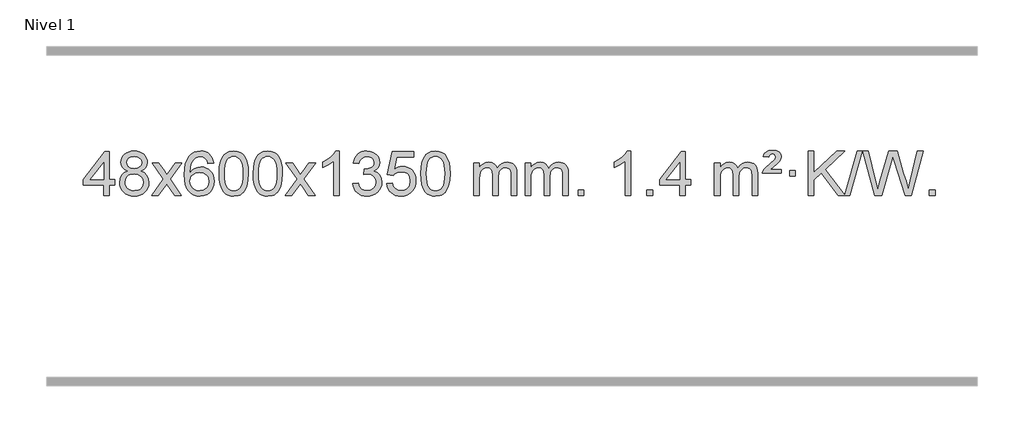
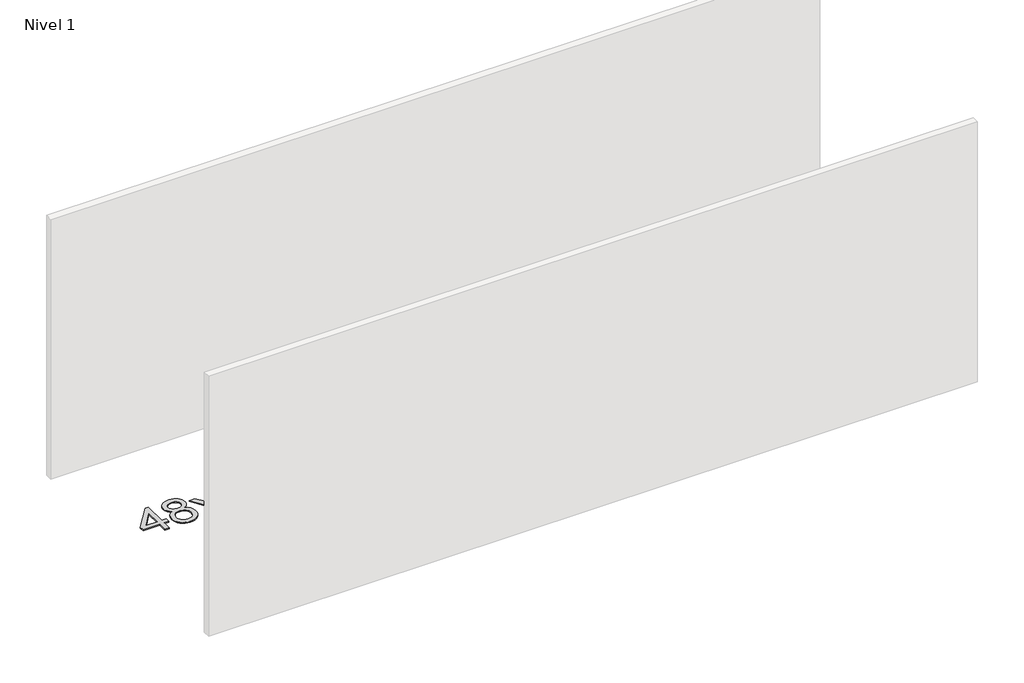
# One storey, part 10 of 10: 1 proxy.
"""IFC4 building model written with IfcOpenShell, lengths in millimetres."""

from ifc_helpers import new_model, si_unit, origin, origin_with_axes, place, context, project, spatial, polyline, outline, extrude, element, save

model = new_model("IFC4")

# Units and contexts
model_context = context("Model", 3, world=origin())
ifc_project = project(units=[si_unit("LENGTHUNIT", "METRE", prefix="MILLI")], contexts=[model_context])

# Site, building, storey
site = spatial("IfcSite", under=ifc_project)
building = spatial("IfcBuilding", under=site)
storey = spatial("IfcBuildingStorey", under=building, Name="Nivel 1", Elevation=0.0)

# Proxy
placement = place(None, origin())
element("IfcBuildingElementProxy", 1, Name="Texto de modelo 1", ObjectType="Texto de modelo 1", at=placement, inside=storey, context=model_context, shape_type="SweptSolid", body=[
    extrude(outline(polyline([(-13962.9088769, 14445.5327586), (-13962.9088769, 14539.7105494), (-14144.9859391, 14539.7105494), (-14144.9859391, 14589.9387045), (-13950.3518382, 14841.0794799), (-13912.6807219, 14841.0794799), (-13912.6807219, 14589.9387045), (-13862.4525668, 14589.9387045), (-13862.4525668, 14539.7105494), (-13912.6807219, 14539.7105494), (-13912.6807219, 14445.5327586), (-13962.9088769, 14445.5327586)]), holes=[polyline([(-13962.9088769, 14589.9387045), (-13962.9088769, 14745.1358555), (-14083.1817639, 14589.9387045), (-13962.9088769, 14589.9387045)])]), origin_with_axes(), (0.0, 0.0, 1.0), 10.0),
    extrude(outline(polyline([(-13745.3189395, 14666.8505669), (-13772.2111134, 14680.0943188), (-13791.0834597, 14698.0469601), (-13802.2302842, 14720.340609), (-13805.9458923, 14746.6073835), (-13803.9225414, 14767.0922793), (-13797.8524884, 14785.8726551), (-13787.7357336, 14802.9485111), (-13773.5722768, 14818.3198471), (-13756.0426997, 14831.0240387), (-13735.827584, 14840.0984612), (-13712.9269298, 14845.5431147), (-13687.3407371, 14847.3579992), (-13661.631917, 14845.5001952), (-13638.5595845, 14839.9267829), (-13618.1237397, 14830.6377626), (-13600.3243825, 14817.633134), (-13585.9034083, 14801.961361), (-13575.6027124, 14784.6709073), (-13569.4222949, 14765.7617727), (-13567.3621557, 14745.2339574), (-13571.0287129, 14719.8133115), (-13582.0283846, 14697.8998073), (-13600.483798, 14680.0575306), (-13626.5175805, 14666.8505669), (-13595.6032302, 14650.9212765), (-13573.1011148, 14627.462668), (-13559.3791164, 14597.6029127), (-13554.805117, 14562.4701822), (-13557.0737226, 14537.4174183), (-13563.8795395, 14514.4493191), (-13575.2225677, 14493.5658845), (-13591.1028071, 14474.7671145), (-13610.686392, 14459.2302316), (-13633.1394565, 14448.1324581), (-13658.4620005, 14441.473794), (-13686.654024, 14439.2542393), (-13714.8460476, 14441.482991), (-13740.1685916, 14448.1692463), (-13762.621656, 14459.313005), (-13782.2052409, 14474.9142673), (-13798.0854804, 14493.8448617), (-13809.4285086, 14514.9766166), (-13816.2343255, 14538.3095321), (-13818.5029311, 14563.8436083), (-13813.7449906, 14600.3375022), (-13799.4711692, 14630.356673), (-13776.4172309, 14652.8710511), (-13745.3189395, 14666.8505669)]), holes=[polyline([(-13755.7177373, 14745.1358555), (-13751.2663651, 14723.2100886), (-13737.9122487, 14705.6989056), (-13716.0477954, 14694.2209874), (-13686.0654128, 14690.3950146), (-13656.782006, 14694.1964619), (-13635.2486466, 14705.6008038), (-13622.0048947, 14722.5233755), (-13617.5903108, 14742.8795126), (-13622.1520475, 14764.0082019), (-13635.8372578, 14781.4825966), (-13657.6649228, 14793.2180323), (-13686.654024, 14797.1298442), (-13715.8270662, 14793.3038714), (-13737.6179431, 14781.8259532), (-13751.1927887, 14765.0014833), (-13755.7177373, 14745.1358555)]), polyline([(-13768.274776, 14565.6094419), (-13766.1778487, 14546.393739), (-13759.8870665, 14527.7911728), (-13748.2742582, 14511.5675768), (-13730.2112523, 14499.4887846), (-13708.5797909, 14491.9839919), (-13686.2616166, 14489.4823943), (-13652.0731165, 14494.7431069), (-13638.1794398, 14501.3189975), (-13626.4194787, 14510.5252445), (-13610.3798237, 14534.4253114), (-13605.033272, 14564.039812), (-13610.551502, 14594.1570847), (-13627.1061917, 14618.5844492), (-13639.1849839, 14628.0267537), (-13653.3484407, 14634.771257), (-13687.9293483, 14640.1668596), (-13721.6396018, 14634.8448334), (-13735.3769286, 14628.1923006), (-13747.0357222, 14618.8787548), (-13762.9650126, 14594.9173741), (-13768.274776, 14565.6094419)])]), origin_with_axes(), (0.0, 0.0, 1.0), 10.0),
    extrude(outline(polyline([(-13529.6910394, 14445.5327586), (-13422.3675987, 14593.8627791), (-13523.41252, 14740.6231697), (-13462.981771, 14740.6231697), (-13414.2251439, 14669.9898266), (-13391.4655111, 14636.6351924), (-13371.7470362, 14663.907511), (-13316.2213804, 14740.6231697), (-13255.7906313, 14740.6231697), (-13361.9368496, 14593.8627791), (-13259.7147059, 14445.5327586), (-13320.145455, 14445.5327586), (-13381.6553246, 14534.7073543), (-13392.9370391, 14550.9922639), (-13469.2602903, 14445.5327586), (-13529.6910394, 14445.5327586)])), origin_with_axes(), (0.0, 0.0, 1.0), 10.0),
    extrude(outline(polyline([(-12970.9028142, 14740.6231697), (-13021.1309693, 14734.3446503), (-13029.2243732, 14759.2379987), (-13040.1627312, 14776.2341468), (-13062.9468894, 14791.9059198), (-13090.4889881, 14797.1298442), (-13113.8372321, 14794.0886863), (-13135.8120499, 14784.9652129), (-13154.6843963, 14765.74951), (-13170.0986519, 14739.2987945), (-13180.5097123, 14701.8851956), (-13184.3724733, 14649.7808424), (-13164.2248027, 14673.2885019), (-13140.0794811, 14689.8554544), (-13113.2854091, 14699.6779036), (-13085.1914874, 14702.9520534), (-13061.0584285, 14700.7141046), (-13038.7893051, 14694.0002582), (-13018.3841171, 14682.8105142), (-12999.8428645, 14667.1448725), (-12984.4347403, 14647.935301), (-12973.4289372, 14626.1137673), (-12966.8254554, 14601.6802715), (-12964.6242948, 14574.6348135), (-12968.7690986, 14538.6682171), (-12981.2035101, 14505.3258456), (-13000.8974596, 14477.0479829), (-13026.8208775, 14456.2749129), (-13057.7965415, 14443.5094077), (-13092.6472291, 14439.2542393), (-13122.5897579, 14442.0746679), (-13149.6321502, 14450.5359538), (-13173.7744061, 14464.6380969), (-13195.0165257, 14484.3810973), (-13212.3345706, 14510.5988209), (-13224.7046027, 14544.1251333), (-13232.1266219, 14584.9600348), (-13234.6006284, 14633.1035252), (-13231.8537761, 14687.0779453), (-13223.6132194, 14733.1429025), (-13209.8789583, 14771.2983967), (-13190.6509927, 14801.5444281), (-13169.8104776, 14821.5878655), (-13145.6467619, 14835.9046065), (-13118.1598455, 14844.494651), (-13087.3497284, 14847.3579992), (-13064.2160823, 14845.5860343), (-13043.2774654, 14840.2701395), (-13024.5338777, 14831.4103147), (-13007.9853193, 14819.0065601), (-12994.0793799, 14803.4758086), (-12983.2636492, 14785.234993), (-12975.5381274, 14764.2841134), (-12970.9028142, 14740.6231697)]), holes=[polyline([(-13184.3724733, 14575.4196284), (-13181.4662055, 14553.1627677), (-13172.7474022, 14531.9114511), (-13159.2093448, 14513.6399787), (-13141.8453146, 14500.3226505), (-13120.8883036, 14492.1924584), (-13096.5713038, 14489.4823943), (-13063.425136, 14495.0987261), (-13049.5099995, 14502.1191409), (-13037.366828, 14511.9477215), (-13027.5167876, 14524.1859292), (-13020.4810444, 14538.4352252), (-13014.8524499, 14572.9670818), (-13020.407468, 14606.1132495), (-13027.3512407, 14619.7340804), (-13037.0725224, 14631.3867426), (-13049.2524821, 14640.7217482), (-13063.5722888, 14647.3896094), (-13098.6314429, 14652.7238983), (-13131.7285598, 14647.3896094), (-13159.4055485, 14631.3867426), (-13170.3285781, 14619.8873646), (-13178.1307421, 14606.7263862), (-13182.8120405, 14591.9038075), (-13184.3724733, 14575.4196284)])]), origin_with_axes(), (0.0, 0.0, 1.0), 10.0),
    extrude(outline(polyline([(-12920.6746591, 14643.2080174), (-12916.9835765, 14707.5260529), (-12905.9103284, 14758.8210657), (-12887.5652796, 14797.8778709), (-12875.7072166, 14813.1112512), (-12862.0587946, 14825.4812833), (-12846.5740283, 14835.0523465), (-12829.2069324, 14841.8888202), (-12788.8257521, 14847.3579992), (-12757.8746135, 14844.1206377), (-12730.1608366, 14834.408553), (-12706.9842709, 14818.6018899), (-12689.6447662, 14797.0807932), (-12676.5481671, 14770.0292039), (-12666.1003185, 14737.6310628), (-12659.2577134, 14696.489593), (-12656.976845, 14643.2080174), (-12660.6311395, 14579.2578639), (-12671.5940229, 14528.0854784), (-12689.8287072, 14488.991885), (-12701.659179, 14473.7125195), (-12715.298404, 14461.278108), (-12730.8015644, 14451.6426654), (-12748.2238425, 14444.7602064), (-12788.8257521, 14439.2542393), (-12816.4904781, 14441.6454722), (-12841.0159444, 14448.8191711), (-12862.4021511, 14460.775336), (-12880.6490981, 14477.5139668), (-12898.160281, 14507.7722609), (-12910.6682689, 14545.474034), (-12918.1730616, 14590.6192862), (-12920.6746591, 14643.2080174)]), holes=[polyline([(-12870.4465041, 14643.3061192), (-12868.9749761, 14599.6415921), (-12864.5603921, 14564.2973294), (-12857.2027522, 14537.2733312), (-12846.9020564, 14518.5695974), (-12834.4431195, 14505.8439461), (-12820.6107564, 14496.7541951), (-12805.4049673, 14491.3003445), (-12788.8257521, 14489.4823943), (-12772.2465368, 14491.3064759), (-12757.0407477, 14496.7787206), (-12743.2083847, 14505.8991284), (-12730.7494478, 14518.6676993), (-12720.4487519, 14537.4020899), (-12713.091112, 14564.4199567), (-12708.676528, 14599.7212999), (-12707.2050001, 14643.3061192), (-12708.6274771, 14685.8148838), (-12712.8949083, 14720.5368128), (-12720.0072935, 14747.4719062), (-12729.9646328, 14766.620164), (-12742.2151033, 14779.9681491), (-12756.2068818, 14789.5024241), (-12771.9399685, 14795.2229892), (-12789.4143633, 14797.1298442), (-12805.9077394, 14795.4498497), (-12820.8560111, 14790.4098664), (-12834.2591785, 14782.0098942), (-12846.1172414, 14770.249933), (-12856.7612938, 14749.4032867), (-12864.3641884, 14721.2971022), (-12868.9259251, 14685.9313798), (-12870.4465041, 14643.3061192)])]), origin_with_axes(), (0.0, 0.0, 1.0), 10.0),
    extrude(outline(polyline([(-12613.0272093, 14643.2080174), (-12609.3361266, 14707.5260529), (-12598.2628786, 14758.8210657), (-12579.9178297, 14797.8778709), (-12568.0597668, 14813.1112512), (-12554.4113447, 14825.4812833), (-12538.9265784, 14835.0523465), (-12521.5594826, 14841.8888202), (-12481.1783022, 14847.3579992), (-12450.2271637, 14844.1206377), (-12422.5133867, 14834.408553), (-12399.336821, 14818.6018899), (-12381.9973163, 14797.0807932), (-12368.9007173, 14770.0292039), (-12358.4528686, 14737.6310628), (-12351.6102635, 14696.489593), (-12349.3293952, 14643.2080174), (-12352.9836896, 14579.2578639), (-12363.9465731, 14528.0854784), (-12382.1812573, 14488.991885), (-12394.0117292, 14473.7125195), (-12407.6509541, 14461.278108), (-12423.1541145, 14451.6426654), (-12440.5763927, 14444.7602064), (-12481.1783022, 14439.2542393), (-12508.8430283, 14441.6454722), (-12533.3684946, 14448.8191711), (-12554.7547013, 14460.775336), (-12573.0016482, 14477.5139668), (-12590.5128312, 14507.7722609), (-12603.020819, 14545.474034), (-12610.5256117, 14590.6192862), (-12613.0272093, 14643.2080174)]), holes=[polyline([(-12562.7990542, 14643.3061192), (-12561.3275262, 14599.6415921), (-12556.9129423, 14564.2973294), (-12549.5553024, 14537.2733312), (-12539.2546065, 14518.5695974), (-12526.7956696, 14505.8439461), (-12512.9633066, 14496.7541951), (-12497.7575175, 14491.3003445), (-12481.1783022, 14489.4823943), (-12464.599087, 14491.3064759), (-12449.3932978, 14496.7787206), (-12435.5609348, 14505.8991284), (-12423.1019979, 14518.6676993), (-12412.8013021, 14537.4020899), (-12405.4436622, 14564.4199567), (-12401.0290782, 14599.7212999), (-12399.5575502, 14643.3061192), (-12400.9800273, 14685.8148838), (-12405.2474584, 14720.5368128), (-12412.3598437, 14747.4719062), (-12422.317183, 14766.620164), (-12434.5676534, 14779.9681491), (-12448.559432, 14789.5024241), (-12464.2925187, 14795.2229892), (-12481.7669134, 14797.1298442), (-12498.2602895, 14795.4498497), (-12513.2085613, 14790.4098664), (-12526.6117286, 14782.0098942), (-12538.4697916, 14770.249933), (-12549.113844, 14749.4032867), (-12556.7167386, 14721.2971022), (-12561.2784753, 14685.9313798), (-12562.7990542, 14643.3061192)])]), origin_with_axes(), (0.0, 0.0, 1.0), 10.0),
    extrude(outline(polyline([(-12324.2153176, 14445.5327586), (-12216.8918769, 14593.8627791), (-12317.9367982, 14740.6231697), (-12257.5060492, 14740.6231697), (-12208.7494221, 14669.9898266), (-12185.9897893, 14636.6351924), (-12166.2713144, 14663.907511), (-12110.7456586, 14740.6231697), (-12050.3149095, 14740.6231697), (-12156.4611278, 14593.8627791), (-12054.2389841, 14445.5327586), (-12114.6697332, 14445.5327586), (-12176.1796028, 14534.7073543), (-12187.4613173, 14550.9922639), (-12263.7845685, 14445.5327586), (-12324.2153176, 14445.5327586)])), origin_with_axes(), (0.0, 0.0, 1.0), 10.0),
    extrude(outline(polyline([(-11834.4908056, 14445.5327586), (-11884.7189607, 14445.5327586), (-11884.7189607, 14758.6739129), (-11905.6882344, 14741.714553), (-11932.2983654, 14724.7797184), (-11985.1752709, 14699.4203862), (-11985.1752709, 14746.9016891), (-11945.7260583, 14768.3614721), (-11911.5498209, 14793.8924826), (-11884.6085961, 14821.0421738), (-11866.8644212, 14847.3579992), (-11834.4908056, 14847.3579992), (-11834.4908056, 14445.5327586)])), origin_with_axes(), (0.0, 0.0, 1.0), 10.0),
    extrude(outline(polyline([(-11715.1989373, 14552.2675882), (-11664.9707823, 14558.5461076), (-11653.7258559, 14526.9818324), (-11637.2570053, 14505.6692021), (-11614.7548899, 14493.5290963), (-11585.4101694, 14489.4823943), (-11550.9764147, 14495.0496752), (-11536.7025933, 14502.0087763), (-11524.3908092, 14511.7515178), (-11507.394661, 14536.6693916), (-11501.7292783, 14566.8847661), (-11507.3456101, 14595.567299), (-11524.1946054, 14618.8297038), (-11549.7010904, 14634.2439594), (-11581.2898911, 14639.3820446), (-11616.5084608, 14633.8883402), (-11610.9166544, 14684.1164952), (-11602.8723015, 14683.5278841), (-11572.7795543, 14687.1331276), (-11545.8751177, 14697.9488583), (-11534.8018696, 14706.1281013), (-11526.8924067, 14716.2448562), (-11522.146729, 14728.2991229), (-11520.5648364, 14742.2909014), (-11525.1510986, 14763.9836764), (-11538.9098853, 14781.5806985), (-11559.9036844, 14793.2425577), (-11586.1949844, 14797.1298442), (-11612.5353352, 14793.2057695), (-11634.0686947, 14781.4335457), (-11649.7895186, 14761.8131726), (-11658.6922629, 14734.3446503), (-11708.920418, 14740.6231697), (-11702.966861, 14764.6029444), (-11694.1315618, 14785.7255023), (-11682.4145202, 14803.9908434), (-11667.8157364, 14819.3989676), (-11650.7950627, 14831.6310439), (-11631.8123518, 14840.3682413), (-11610.8676035, 14845.6105598), (-11587.9608179, 14847.3579992), (-11556.38428, 14843.9121712), (-11527.3829161, 14833.5746872), (-11502.9310261, 14817.265252), (-11485.0029102, 14795.9035708), (-11474.0032386, 14771.2922654), (-11470.3366814, 14745.2339574), (-11473.8192976, 14720.9537457), (-11484.2671462, 14698.9298769), (-11501.5330745, 14680.1678952), (-11525.4699297, 14665.6733446), (-11494.0282818, 14652.969153), (-11470.7290888, 14631.3376917), (-11456.3081146, 14601.956183), (-11451.5011232, 14566.0018493), (-11453.9046189, 14540.5198898), (-11461.115106, 14517.0490185), (-11473.1325845, 14495.5892354), (-11489.9570544, 14476.1405406), (-11510.4542129, 14460.0027838), (-11533.4897572, 14448.4758146), (-11559.0636872, 14441.5596331), (-11587.176003, 14439.2542393), (-11612.5843862, 14441.2224079), (-11635.7364264, 14447.126914), (-11656.6321237, 14456.9677573), (-11675.2714781, 14470.744938), (-11690.9003316, 14487.6491157), (-11702.7645259, 14506.87095), (-11710.8640612, 14528.4104408), (-11715.1989373, 14552.2675882)])), origin_with_axes(), (0.0, 0.0, 1.0), 10.0),
    extrude(outline(polyline([(-11407.5514875, 14552.2675882), (-11357.3233324, 14558.5461076), (-11348.1017571, 14528.3920467), (-11332.0130512, 14506.7973736), (-11309.1307911, 14493.8111391), (-11279.5285532, 14489.4823943), (-11260.3986894, 14490.9876448), (-11243.5251686, 14495.5033963), (-11228.9079907, 14503.0296488), (-11216.5471556, 14513.5664023), (-11206.718575, 14526.5924906), (-11199.6981602, 14541.5867476), (-11194.0818284, 14577.4797676), (-11199.342541, 14611.2758602), (-11205.9184316, 14625.1940624), (-11215.1246786, 14637.1257017), (-11226.9919386, 14646.696765), (-11241.5508686, 14653.5332387), (-11278.7437383, 14659.0024177), (-11303.1097891, 14656.8196512), (-11322.8405268, 14650.2713517), (-11338.5981389, 14640.240436), (-11351.044813, 14627.6098208), (-11401.2729681, 14633.8883402), (-11357.3233324, 14841.0794799), (-11162.6892315, 14841.0794799), (-11162.6892315, 14790.8513248), (-11316.7091602, 14790.8513248), (-11338.1934687, 14680.1924206), (-11320.4676879, 14692.8966122), (-11302.3127114, 14701.9710347), (-11283.7285393, 14707.4156883), (-11264.7151715, 14709.2305728), (-11240.2540845, 14706.9803612), (-11217.7856917, 14700.2297266), (-11197.3099929, 14688.9786689), (-11178.8269884, 14673.2271882), (-11163.5261631, 14653.9379089), (-11152.5970021, 14632.0734557), (-11146.0395056, 14607.6338284), (-11143.8536734, 14580.6190273), (-11145.821842, 14554.5975075), (-11151.7263481, 14530.3908722), (-11161.5671914, 14507.9991214), (-11175.3443722, 14487.4222552), (-11196.215544, 14466.3487482), (-11220.5693321, 14451.2962432), (-11248.4057364, 14442.2647402), (-11279.7247569, 14439.2542393), (-11305.6451092, 14441.1886854), (-11329.0577325, 14446.9920239), (-11349.9626268, 14456.6642547), (-11368.3597923, 14470.2053778), (-11383.666749, 14486.9409429), (-11395.3010171, 14506.1964996), (-11403.2625966, 14527.9720481), (-11407.5514875, 14552.2675882)])), origin_with_axes(), (0.0, 0.0, 1.0), 10.0),
    extrude(outline(polyline([(-11099.9040377, 14643.2080174), (-11096.212955, 14707.5260529), (-11085.1397069, 14758.8210657), (-11066.7946581, 14797.8778709), (-11054.9365951, 14813.1112512), (-11041.2881731, 14825.4812833), (-11025.8034068, 14835.0523465), (-11008.4363109, 14841.8888202), (-10968.0551306, 14847.3579992), (-10937.1039921, 14844.1206377), (-10909.3902151, 14834.408553), (-10886.2136494, 14818.6018899), (-10868.8741447, 14797.0807932), (-10855.7775457, 14770.0292039), (-10845.329697, 14737.6310628), (-10838.4870919, 14696.489593), (-10836.2062235, 14643.2080174), (-10839.860518, 14579.2578639), (-10850.8234015, 14528.0854784), (-10869.0580857, 14488.991885), (-10880.8885575, 14473.7125195), (-10894.5277825, 14461.278108), (-10910.0309429, 14451.6426654), (-10927.4532211, 14444.7602064), (-10968.0551306, 14439.2542393), (-10995.7198566, 14441.6454722), (-11020.245323, 14448.8191711), (-11041.6315296, 14460.775336), (-11059.8784766, 14477.5139668), (-11077.3896596, 14507.7722609), (-11089.8976474, 14545.474034), (-11097.4024401, 14590.6192862), (-11099.9040377, 14643.2080174)]), holes=[polyline([(-11049.6758826, 14643.3061192), (-11048.2043546, 14599.6415921), (-11043.7897707, 14564.2973294), (-11036.4321308, 14537.2733312), (-11026.1314349, 14518.5695974), (-11013.672498, 14505.8439461), (-10999.840135, 14496.7541951), (-10984.6343459, 14491.3003445), (-10968.0551306, 14489.4823943), (-10951.4759154, 14491.3064759), (-10936.2701262, 14496.7787206), (-10922.4377632, 14505.8991284), (-10909.9788263, 14518.6676993), (-10899.6781304, 14537.4020899), (-10892.3204905, 14564.4199567), (-10887.9059066, 14599.7212999), (-10886.4343786, 14643.3061192), (-10887.8568557, 14685.8148838), (-10892.1242868, 14720.5368128), (-10899.236672, 14747.4719062), (-10909.1940114, 14766.620164), (-10921.4444818, 14779.9681491), (-10935.4362604, 14789.5024241), (-10951.169347, 14795.2229892), (-10968.6437418, 14797.1298442), (-10985.1371179, 14795.4498497), (-11000.0853897, 14790.4098664), (-11013.488557, 14782.0098942), (-11025.34662, 14770.249933), (-11035.9906724, 14749.4032867), (-11043.5935669, 14721.2971022), (-11048.1553037, 14685.9313798), (-11049.6758826, 14643.3061192)])]), origin_with_axes(), (0.0, 0.0, 1.0), 10.0),
    extrude(outline(polyline([(-10622.7365645, 14445.5327586), (-10622.7365645, 14740.6231697), (-10572.5084094, 14740.6231697), (-10572.5084094, 14692.0627463), (-10557.4007221, 14714.368658), (-10537.9765528, 14731.8430528), (-10514.8980889, 14743.13703), (-10488.8275182, 14746.9016891), (-10460.8930121, 14743.0634536), (-10438.5012613, 14731.5487472), (-10421.7748932, 14713.1178592), (-10410.8365352, 14688.5310792), (-10392.5282746, 14714.068221), (-10371.64484, 14732.3090366), (-10348.1862315, 14743.253526), (-10322.1524489, 14746.9016891), (-10302.0446322, 14745.3841759), (-10284.3954935, 14740.8316362), (-10269.2050328, 14733.24407), (-10256.4732501, 14722.6214774), (-10246.4086118, 14708.841231), (-10239.2195845, 14691.7807035), (-10234.9061681, 14671.4398948), (-10233.4683626, 14647.8188051), (-10233.4683626, 14445.5327586), (-10283.6965177, 14445.5327586), (-10283.6965177, 14626.2363947), (-10284.8614774, 14651.2891585), (-10288.3563563, 14668.1749421), (-10294.9046558, 14679.7386995), (-10305.2298772, 14688.8253848), (-10318.5104172, 14694.7114967), (-10333.9246728, 14696.673534), (-10361.1356777, 14691.6458134), (-10383.318962, 14676.5626516), (-10391.924335, 14664.9927629), (-10398.07103, 14650.393979), (-10402.988386, 14612.1097261), (-10402.988386, 14445.5327586), (-10453.2165411, 14445.5327586), (-10453.2165411, 14631.828201), (-10456.1228088, 14660.228691), (-10464.8416121, 14680.4867262), (-10480.1822913, 14692.6268321), (-10502.9541868, 14696.673534), (-10522.3047798, 14693.9757327), (-10540.1347938, 14685.8823288), (-10554.8500736, 14672.5895261), (-10564.8564639, 14654.2935282), (-10570.595423, 14628.9096705), (-10572.5084094, 14594.3532884), (-10572.5084094, 14445.5327586), (-10622.7365645, 14445.5327586)])), origin_with_axes(), (0.0, 0.0, 1.0), 10.0),
    extrude(outline(polyline([(-10158.12613, 14445.5327586), (-10158.12613, 14740.6231697), (-10107.8979749, 14740.6231697), (-10107.8979749, 14692.0627463), (-10092.7902877, 14714.368658), (-10073.3661183, 14731.8430528), (-10050.2876545, 14743.13703), (-10024.2170838, 14746.9016891), (-9996.2825776, 14743.0634536), (-9973.8908268, 14731.5487472), (-9957.1644588, 14713.1178592), (-9946.2261008, 14688.5310792), (-9927.9178402, 14714.068221), (-9907.0344056, 14732.3090366), (-9883.575797, 14743.253526), (-9857.5420145, 14746.9016891), (-9837.4341978, 14745.3841759), (-9819.7850591, 14740.8316362), (-9804.5945983, 14733.24407), (-9791.8628156, 14722.6214774), (-9781.7981774, 14708.841231), (-9774.6091501, 14691.7807035), (-9770.2957337, 14671.4398948), (-9768.8579282, 14647.8188051), (-9768.8579282, 14445.5327586), (-9819.0860833, 14445.5327586), (-9819.0860833, 14626.2363947), (-9820.2510429, 14651.2891585), (-9823.7459219, 14668.1749421), (-9830.2942214, 14679.7386995), (-9840.6194427, 14688.8253848), (-9853.8999827, 14694.7114967), (-9869.3142383, 14696.673534), (-9896.5252433, 14691.6458134), (-9918.7085276, 14676.5626516), (-9927.3139006, 14664.9927629), (-9933.4605956, 14650.393979), (-9938.3779516, 14612.1097261), (-9938.3779516, 14445.5327586), (-9988.6061066, 14445.5327586), (-9988.6061066, 14631.828201), (-9991.5123744, 14660.228691), (-10000.2311777, 14680.4867262), (-10015.5718569, 14692.6268321), (-10038.3437524, 14696.673534), (-10057.6943453, 14693.9757327), (-10075.5243594, 14685.8823288), (-10090.2396392, 14672.5895261), (-10100.2460294, 14654.2935282), (-10105.9849886, 14628.9096705), (-10107.8979749, 14594.3532884), (-10107.8979749, 14445.5327586), (-10158.12613, 14445.5327586)])), origin_with_axes(), (0.0, 0.0, 1.0), 10.0),
    extrude(outline(polyline([(-9680.9586568, 14445.5327586), (-9680.9586568, 14495.7609137), (-9630.7305017, 14495.7609137), (-9630.7305017, 14445.5327586), (-9680.9586568, 14445.5327586)])), origin_with_axes(), (0.0, 0.0, 1.0), 10.0),
    extrude(outline(polyline([(-9203.7911836, 14445.5327586), (-9254.0193387, 14445.5327586), (-9254.0193387, 14758.6739129), (-9274.9886124, 14741.714553), (-9301.5987434, 14724.7797184), (-9354.4756488, 14699.4203862), (-9354.4756488, 14746.9016891), (-9315.0264362, 14768.3614721), (-9280.8501989, 14793.8924826), (-9253.9089741, 14821.0421738), (-9236.1647992, 14847.3579992), (-9203.7911836, 14847.3579992), (-9203.7911836, 14445.5327586)])), origin_with_axes(), (0.0, 0.0, 1.0), 10.0),
    extrude(outline(polyline([(-9059.3852378, 14445.5327586), (-9059.3852378, 14495.7609137), (-9009.1570827, 14495.7609137), (-9009.1570827, 14445.5327586), (-9059.3852378, 14445.5327586)])), origin_with_axes(), (0.0, 0.0, 1.0), 10.0),
    extrude(outline(polyline([(-8764.2948267, 14445.5327586), (-8764.2948267, 14539.7105494), (-8946.3718888, 14539.7105494), (-8946.3718888, 14589.9387045), (-8751.7377879, 14841.0794799), (-8714.0666716, 14841.0794799), (-8714.0666716, 14589.9387045), (-8663.8385165, 14589.9387045), (-8663.8385165, 14539.7105494), (-8714.0666716, 14539.7105494), (-8714.0666716, 14445.5327586), (-8764.2948267, 14445.5327586)]), holes=[polyline([(-8764.2948267, 14589.9387045), (-8764.2948267, 14745.1358555), (-8884.5677137, 14589.9387045), (-8764.2948267, 14589.9387045)])]), origin_with_axes(), (0.0, 0.0, 1.0), 10.0),
    extrude(outline(polyline([(-8450.3688575, 14445.5327586), (-8450.3688575, 14740.6231697), (-8400.1407024, 14740.6231697), (-8400.1407024, 14692.0627463), (-8385.0330151, 14714.368658), (-8365.6088458, 14731.8430528), (-8342.530382, 14743.13703), (-8316.4598112, 14746.9016891), (-8288.5253051, 14743.0634536), (-8266.1335543, 14731.5487472), (-8249.4071862, 14713.1178592), (-8238.4688283, 14688.5310792), (-8220.1605676, 14714.068221), (-8199.277133, 14732.3090366), (-8175.8185245, 14743.253526), (-8149.784742, 14746.9016891), (-8129.6769252, 14745.3841759), (-8112.0277865, 14740.8316362), (-8096.8373258, 14733.24407), (-8084.1055431, 14722.6214774), (-8074.0409048, 14708.841231), (-8066.8518775, 14691.7807035), (-8062.5384611, 14671.4398948), (-8061.1006556, 14647.8188051), (-8061.1006556, 14445.5327586), (-8111.3288107, 14445.5327586), (-8111.3288107, 14626.2363947), (-8112.4937704, 14651.2891585), (-8115.9886493, 14668.1749421), (-8122.5369488, 14679.7386995), (-8132.8621702, 14688.8253848), (-8146.1427102, 14694.7114967), (-8161.5569658, 14696.673534), (-8188.7679707, 14691.6458134), (-8210.951255, 14676.5626516), (-8219.556628, 14664.9927629), (-8225.703323, 14650.393979), (-8230.620679, 14612.1097261), (-8230.620679, 14445.5327586), (-8280.8488341, 14445.5327586), (-8280.8488341, 14631.828201), (-8283.7551019, 14660.228691), (-8292.4739051, 14680.4867262), (-8307.8145843, 14692.6268321), (-8330.5864798, 14696.673534), (-8349.9370728, 14693.9757327), (-8367.7670868, 14685.8823288), (-8382.4823666, 14672.5895261), (-8392.4887569, 14654.2935282), (-8398.227716, 14628.9096705), (-8400.1407024, 14594.3532884), (-8400.1407024, 14445.5327586), (-8450.3688575, 14445.5327586)])), origin_with_axes(), (0.0, 0.0, 1.0), 10.0),
    extrude(outline(polyline([(-8017.15102, 14646.4453789), (-8013.3250472, 14662.2643047), (-8004.9863887, 14678.1322815), (-7983.4775547, 14703.2708845), (-7951.520872, 14731.0091869), (-7907.3750326, 14768.3859976), (-7900.2381219, 14779.9129668), (-7897.8591517, 14791.7342416), (-7899.7476126, 14803.8252965), (-7905.4129953, 14813.6109575), (-7914.7817234, 14820.0856807), (-7927.7802206, 14822.2439217), (-7940.214632, 14820.6252409), (-7949.0683254, 14815.7691986), (-7955.4939976, 14806.3023686), (-7960.6443455, 14790.8513248), (-8010.8725006, 14797.1298442), (-8000.0322444, 14822.3420236), (-7983.4039783, 14839.9022575), (-7959.6388014, 14850.2029533), (-7927.3878131, 14853.6365186), (-7891.6051577, 14849.5039775), (-7866.8589622, 14837.1063543), (-7852.437988, 14818.7735682), (-7847.6309966, 14796.8355386), (-7851.7267495, 14773.928753), (-7864.0140081, 14752.2972917), (-7884.5418234, 14732.4807149), (-7921.0111919, 14704.4235814), (-7946.6157787, 14677.8379759), (-7847.6309966, 14677.8379759), (-7847.6309966, 14646.4453789), (-8017.15102, 14646.4453789)])), origin_with_axes(), (0.0, 0.0, 1.0), 10.0),
    extrude(outline(polyline([(-7772.288764, 14621.3313014), (-7772.288764, 14671.5594565), (-7722.0606089, 14671.5594565), (-7722.0606089, 14621.3313014), (-7772.288764, 14621.3313014)])), origin_with_axes(), (0.0, 0.0, 1.0), 10.0),
    extrude(outline(polyline([(-7331.4189809, 14445.5327586), (-7484.8502984, 14648.2112125), (-7552.5405855, 14583.6601851), (-7552.5405855, 14445.5327586), (-7602.7687406, 14445.5327586), (-7602.7687406, 14847.3579992), (-7552.5405855, 14847.3579992), (-7552.5405855, 14650.6637591), (-7346.5266682, 14847.3579992), (-7276.2857326, 14847.3579992), (-7449.2393213, 14682.1544579), (-7274.5857114, 14451.5772784), (-7163.2723837, 14847.3579992), (-7117.9493219, 14847.3579992), (-7230.9626708, 14445.5327586), (-7270.0072132, 14445.5327586), (-7276.2857326, 14445.5327586), (-7331.4189809, 14445.5327586)])), origin_with_axes(), (0.0, 0.0, 1.0), 10.0),
    extrude(outline(polyline([(-7003.464445, 14445.5327586), (-7113.0442286, 14847.3579992), (-7061.2464437, 14847.3579992), (-6997.6764349, 14583.2677776), (-6978.0560618, 14501.7451275), (-6957.0622627, 14573.8499986), (-6877.403548, 14847.3579992), (-6802.7480284, 14847.3579992), (-6744.8679278, 14649.0941293), (-6720.0726814, 14575.5177303), (-6701.8012089, 14501.7451275), (-6682.7694471, 14580.9133329), (-6618.6108271, 14847.3579992), (-6566.8130422, 14847.3579992), (-6676.4909277, 14445.5327586), (-6730.152648, 14445.5327586), (-6826.4886798, 14755.5346532), (-6839.9286354, 14798.7975759), (-6855.0363227, 14746.7054854), (-6942.8374922, 14445.5327586), (-7003.464445, 14445.5327586)])), origin_with_axes(), (0.0, 0.0, 1.0), 10.0),
    extrude(outline(polyline([(-6510.3063677, 14445.5327586), (-6510.3063677, 14495.7609137), (-6460.0782126, 14495.7609137), (-6460.0782126, 14445.5327586), (-6510.3063677, 14445.5327586)])), origin_with_axes(), (0.0, 0.0, 1.0), 10.0),
])

save(model, "model.ifc")
